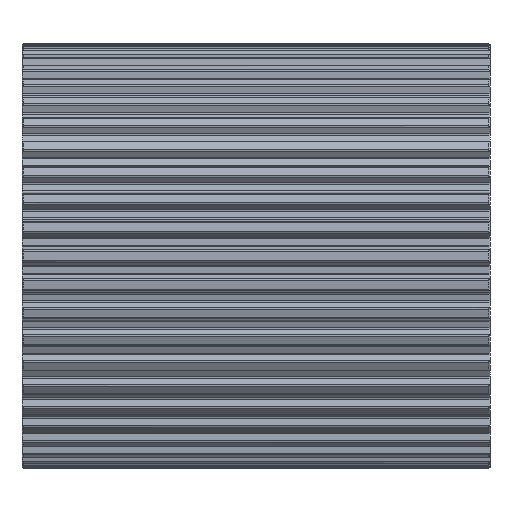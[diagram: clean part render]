
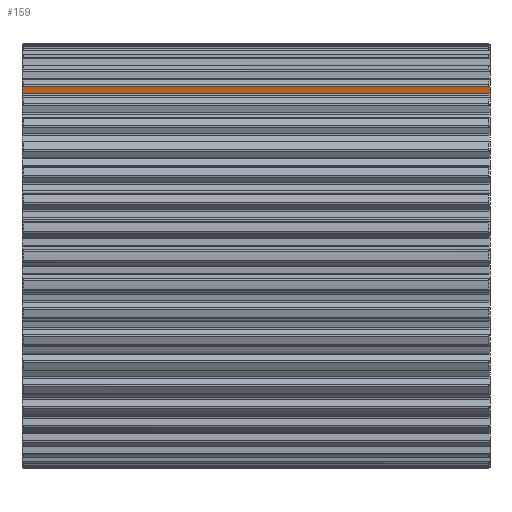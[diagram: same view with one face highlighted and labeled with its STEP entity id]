
A CAD part, front view. The second image highlights one B-rep face of the part: STEP entity #159.
In plain terms, the highlighted planar face has unit normal (0, -0.984, -0.177).
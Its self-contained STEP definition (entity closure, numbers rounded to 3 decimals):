
#159=ADVANCED_FACE('',(#724),#725,.T.);
#724=FACE_OUTER_BOUND('',#1686,.T.);
#725=PLANE('',#1687);
#1686=EDGE_LOOP('',(#3170,#3171,#3172,#3173,#3174,#3175));
#1687=AXIS2_PLACEMENT_3D('',#3176,#3177,#3178);
#3170=ORIENTED_EDGE('',*,*,#7021,.T.);
#3171=ORIENTED_EDGE('',*,*,#7147,.F.);
#3172=ORIENTED_EDGE('',*,*,#7148,.T.);
#3173=ORIENTED_EDGE('',*,*,#7149,.T.);
#3174=ORIENTED_EDGE('',*,*,#7150,.T.);
#3175=ORIENTED_EDGE('',*,*,#7145,.F.);
#3176=CARTESIAN_POINT('',(0.0,-43.138,56.643));
#3177=DIRECTION('',(0.,-0.984,-0.177));
#3178=DIRECTION('',(0.,0.177,-0.984));
#7021=EDGE_CURVE('',#8690,#8688,#8691,.T.);
#7145=EDGE_CURVE('',#8690,#8917,#8918,.T.);
#7147=EDGE_CURVE('',#8920,#8688,#8921,.T.);
#7148=EDGE_CURVE('',#8920,#8922,#8923,.T.);
#7149=EDGE_CURVE('',#8922,#8924,#8925,.T.);
#7150=EDGE_CURVE('',#8924,#8917,#8926,.T.);
#8688=VERTEX_POINT('',#12372);
#8690=VERTEX_POINT('',#12374);
#8691=(B_SPLINE_CURVE(2,(#12376,#12377,#12378),.UNSPECIFIED.,.F.,.F.)B_SPLINE_CURVE_WITH_KNOTS((3,3),(0.0,0.75),.UNSPECIFIED.)RATIONAL_B_SPLINE_CURVE((1.0,1.,1.0))BOUNDED_CURVE()REPRESENTATION_ITEM('')GEOMETRIC_REPRESENTATION_ITEM()CURVE());
#8917=VERTEX_POINT('',#13143);
#8918=LINE('',#13144,#13145);
#8920=VERTEX_POINT('',#13156);
#8921=LINE('',#13157,#13158);
#8922=VERTEX_POINT('',#13159);
#8923=LINE('',#13160,#13161);
#8924=VERTEX_POINT('',#13162);
#8925=LINE('',#13163,#13164);
#8926=(B_SPLINE_CURVE(2,(#13166,#13167,#13168),.UNSPECIFIED.,.F.,.F.)B_SPLINE_CURVE_WITH_KNOTS((3,3),(0.0,0.75),.UNSPECIFIED.)RATIONAL_B_SPLINE_CURVE((1.0,1.,1.0))BOUNDED_CURVE()REPRESENTATION_ITEM('')GEOMETRIC_REPRESENTATION_ITEM()CURVE());
#12372=CARTESIAN_POINT('',(0.,-43.339,57.758));
#12374=CARTESIAN_POINT('',(0.068,-43.352,57.833));
#12376=CARTESIAN_POINT('',(0.5,-43.438,58.309));
#12377=CARTESIAN_POINT('',(0.249,-43.388,58.032));
#12378=CARTESIAN_POINT('',(0.0,-43.339,57.758));
#13143=CARTESIAN_POINT('',(159.932,-43.352,57.833));
#13144=CARTESIAN_POINT('',(0.0,-43.352,57.833));
#13145=VECTOR('',#17231,1.0);
#13156=CARTESIAN_POINT('',(0.0,-42.923,55.453));
#13157=CARTESIAN_POINT('',(0.0,-42.923,55.453));
#13158=VECTOR('',#17232,1.0);
#13159=CARTESIAN_POINT('',(160.0,-42.923,55.453));
#13160=CARTESIAN_POINT('',(0.0,-42.923,55.453));
#13161=VECTOR('',#17233,1.0);
#13162=CARTESIAN_POINT('',(160.0,-43.339,57.758));
#13163=CARTESIAN_POINT('',(160.0,-42.923,55.453));
#13164=VECTOR('',#17234,1.0);
#13166=CARTESIAN_POINT('',(160.0,-43.339,57.758));
#13167=CARTESIAN_POINT('',(159.751,-43.388,58.032));
#13168=CARTESIAN_POINT('',(159.5,-43.438,58.309));
#17231=DIRECTION('',(1.0,0.,0.));
#17232=DIRECTION('',(0.,-0.177,0.984));
#17233=DIRECTION('',(1.0,0.,0.));
#17234=DIRECTION('',(0.,-0.177,0.984));
